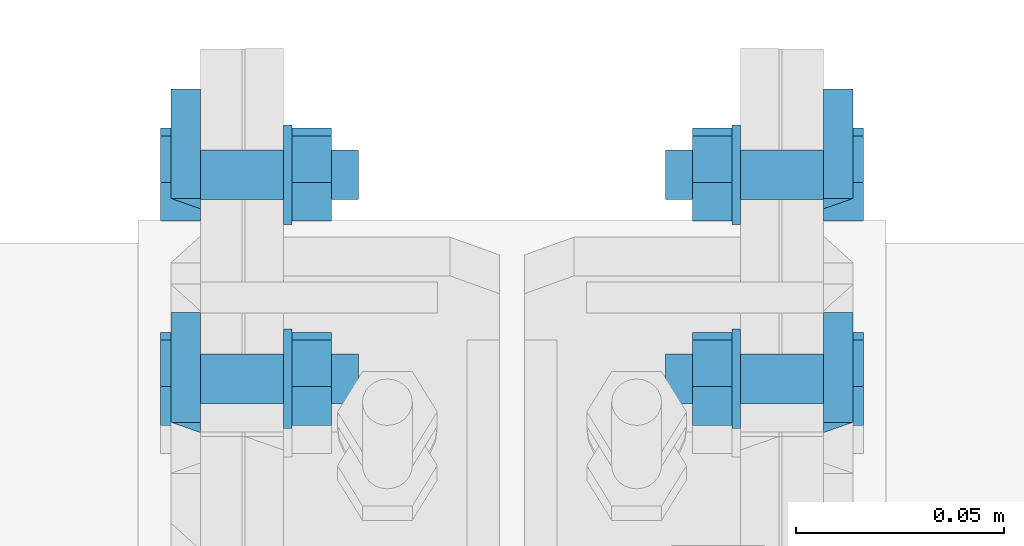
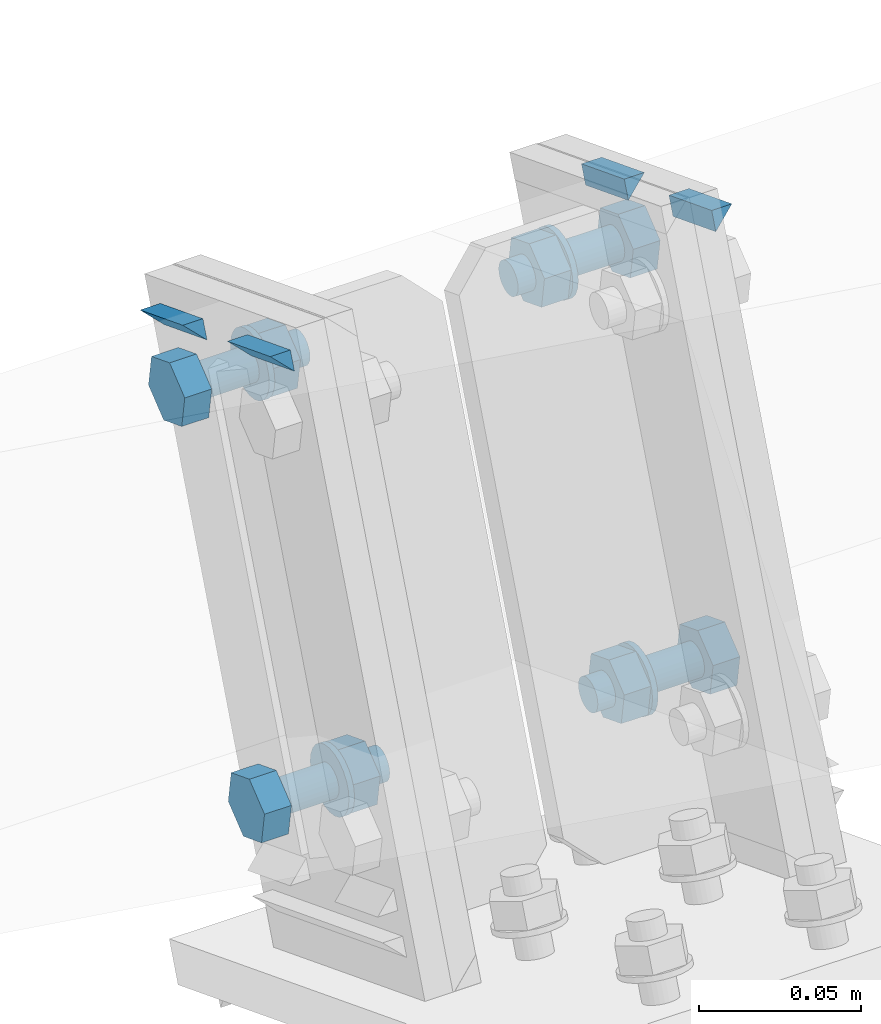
# One storey, part 67 of 72: 16 mechanical fasteners, 8 fasteners.
"""IFC4 building model written with IfcOpenShell, lengths in metres."""

import ifcopenshell
import ifcopenshell.guid

model = None  # the IFC model being written
_history = None  # IfcOwnerHistory: only IFC2X3 demands one
_inside = {}  # id of a spatial element -> (the spatial element, [elements in it])
_under = {}  # id of a project, library or spatial element -> (it, [spatial elements below it])
_declared = {}  # id of a project -> (the project, [libraries it declares])
_typed = {}  # id of a type object -> (the type object, [elements of that type])
_made_of = {}  # id of a material, layer set ... -> (it, [elements and type objects made of it])


def new_model(schema):
    """Start an empty IFC model of exactly this schema.

    Asked for "IFC4X3", IfcOpenShell would pick the latest addendum, in which some entities
    have other attributes; the version numbers below select the first issue.
    IFC2X3 requires an IfcOwnerHistory on every rooted entity: one is made here for all.
    """
    global model, _history
    if schema == "IFC4X3":
        model = ifcopenshell.file(schema_version=(4, 3, 0, 0))
    else:
        model = ifcopenshell.file(schema=schema)
    _inside.clear()
    _under.clear()
    _declared.clear()
    _typed.clear()
    _made_of.clear()
    _history = None
    if model.schema == "IFC2X3":
        org = make("IfcOrganization", Name="unknown")
        user = make(
            "IfcPersonAndOrganization",
            ThePerson=make("IfcPerson", FamilyName="unknown"),
            TheOrganization=org,
        )
        app = make(
            "IfcApplication",
            ApplicationDeveloper=org,
            Version="unknown",
            ApplicationFullName="unknown",
            ApplicationIdentifier="unknown",
        )
        _history = make(
            "IfcOwnerHistory",
            OwningUser=user,
            OwningApplication=app,
            ChangeAction="ADDED",
            CreationDate=0,
        )
    return model


def make(cls, **values):
    """One entity of the class cls with the attributes given. An attribute that is None is left unset."""
    return model.create_entity(
        cls, **{name: value for name, value in values.items() if value is not None}
    )


def rooted(cls, **values):
    """An entity with a GlobalId (a new one), such as an element, a storey or a relation."""
    return make(cls, GlobalId=ifcopenshell.guid.new(), OwnerHistory=_history, **values)


def si_unit(unit_type, name, prefix=None):
    """IfcSIUnit, for example si_unit("LENGTHUNIT", "METRE", prefix="MILLI")."""
    return make("IfcSIUnit", UnitType=unit_type, Prefix=prefix, Name=name)


def assignment(units):
    """IfcUnitAssignment: the units of a project."""
    return None if units is None else make("IfcUnitAssignment", Units=units)


def point(xyz):
    """IfcCartesianPoint."""
    return None if xyz is None else make("IfcCartesianPoint", Coordinates=xyz)


def direction(xyz):
    """IfcDirection."""
    return None if xyz is None else make("IfcDirection", DirectionRatios=xyz)


def frame(location, z_axis=None, x_axis=None):
    """IfcAxis2Placement3D, a coordinate frame: its origin and axes. An axis left out is left unset."""
    return make(
        "IfcAxis2Placement3D",
        Location=point(location),
        Axis=direction(z_axis),
        RefDirection=direction(x_axis),
    )


def origin_with_axes():
    """The frame at (0, 0, 0) with the z axis (0, 0, 1) and the x axis (1, 0, 0) written out."""
    return frame((0.0, 0.0, 0.0), z_axis=(0.0, 0.0, 1.0), x_axis=(1.0, 0.0, 0.0))


def place(relative_to, where):
    """IfcLocalPlacement: puts the frame where relative to a parent placement (None: the world)."""
    return make(
        "IfcLocalPlacement", PlacementRelTo=relative_to, RelativePlacement=where
    )


def context(
    kind, dimensions, precision=None, world=None, true_north=None, identifier=None
):
    """IfcGeometricRepresentationContext, for example the 3D "Model" context."""
    return make(
        "IfcGeometricRepresentationContext",
        ContextIdentifier=identifier,
        ContextType=kind,
        CoordinateSpaceDimension=dimensions,
        Precision=precision,
        WorldCoordinateSystem=world,
        TrueNorth=true_north,
    )


def project(units=None, contexts=None):
    """IfcProject with its units and contexts."""
    return rooted(
        "IfcProject",
        Name="project",
        RepresentationContexts=contexts,
        UnitsInContext=assignment(units),
    )


def spatial(cls, under=None, at=None, **own):
    """A site, building, storey or space (cls), placed at a placement, below another one or the project."""
    s = rooted(cls, ObjectPlacement=at, **own)
    if under is not None:
        _under.setdefault(under.id(), (under, []))[1].append(s)
    return s


def polyline(points):
    """IfcPolyline through the points."""
    return make("IfcPolyline", Points=[point(p) for p in points])


def outline(outer, holes=None, kind="AREA"):
    """IfcArbitraryClosedProfileDef: a profile drawn as a closed curve; with holes, ...WithVoids."""
    if holes is None:
        return make("IfcArbitraryClosedProfileDef", ProfileType=kind, OuterCurve=outer)
    return make(
        "IfcArbitraryProfileDefWithVoids",
        ProfileType=kind,
        OuterCurve=outer,
        InnerCurves=holes,
    )


def extrude(swept, where, along, depth):
    """IfcExtrudedAreaSolid: the profile swept, set in the frame where, extruded along a direction by depth."""
    return make(
        "IfcExtrudedAreaSolid",
        SweptArea=swept,
        Position=where,
        ExtrudedDirection=direction(along),
        Depth=depth,
    )


def shape(context_of_items, identifier, shape_type, items):
    """IfcShapeRepresentation: the items that make up one representation, for example the "Body"."""
    return make(
        "IfcShapeRepresentation",
        ContextOfItems=context_of_items,
        RepresentationIdentifier=identifier,
        RepresentationType=shape_type,
        Items=items,
    )


def made_of(thing, what):
    """Note that an element or type object is made of a material, layer set ...; save() writes the relation."""
    if what is not None:
        _made_of.setdefault(what.id(), (what, []))[1].append(thing)
    return thing


def type_object(cls, material=None, **own):
    """A type object (cls), such as IfcWallType, which elements share."""
    return made_of(rooted(cls, **own), material)


def element(
    cls,
    number,
    at=None,
    inside=None,
    cuts=None,
    type_object=None,
    material=None,
    context=None,
    identifier="Body",
    shape_type=None,
    held_by="IfcProductDefinitionShape",
    body=None,
    shapes=None,
    **own,
):
    """One element of the class cls, such as IfcWall. Its Tag is "e" and its number.

    at: its placement. inside: the storey or other place that contains it. cuts: it is an
    opening in that element (IfcRelVoidsElement). A single representation is given by context,
    identifier, shape_type and body (its items); several are given by shapes. held_by: the class
    of the entity that holds the representations. save() writes the other relations.
    """
    e = rooted(cls, Tag="e%d" % number, ObjectPlacement=at, **own)
    if body is not None:
        shapes = [shape(context, identifier, shape_type, body)]
    if shapes is not None:
        e.Representation = make(held_by, Representations=shapes)
    if inside is not None:
        _inside.setdefault(inside.id(), (inside, []))[1].append(e)
    if cuts is not None:
        rooted(
            "IfcRelVoidsElement", RelatingBuildingElement=cuts, RelatedOpeningElement=e
        )
    if type_object is not None:
        _typed.setdefault(type_object.id(), (type_object, []))[1].append(e)
    return made_of(e, material)


def aggregate(whole, parts):
    """IfcRelAggregates: a whole, such as a stair, and the parts it consists of."""
    return rooted("IfcRelAggregates", RelatingObject=whole, RelatedObjects=parts)


def save(model, path):
    """Write the relations noted so far, then the file.

    IfcRelAggregates (storeys below a building ...), IfcRelContainedInSpatialStructure (elements
    in a storey), IfcRelDefinesByType, IfcRelAssociatesMaterial and IfcRelDeclares: one each for
    every whole, place, type object, material and project.
    """
    for whole, parts in _under.values():
        aggregate(whole, parts)
    for where, things in _inside.values():
        rooted(
            "IfcRelContainedInSpatialStructure",
            RelatedElements=things,
            RelatingStructure=where,
        )
    for kind, things in _typed.values():
        rooted("IfcRelDefinesByType", RelatedObjects=things, RelatingType=kind)
    for what, things in _made_of.values():
        rooted("IfcRelAssociatesMaterial", RelatedObjects=things, RelatingMaterial=what)
    for by, libraries in _declared.values():
        rooted("IfcRelDeclares", RelatingContext=by, RelatedDefinitions=libraries)
    model.write(path)


model = new_model("IFC4")

# Units and contexts
model_context = context("Model", 3, precision=1e-05, world=origin_with_axes())
ifc_project = project(units=[si_unit("LENGTHUNIT", "METRE"), si_unit("AREAUNIT", "SQUARE_METRE"), si_unit("VOLUMEUNIT", "CUBIC_METRE"), si_unit("MASSUNIT", "GRAM", prefix="KILO"), si_unit("TIMEUNIT", "SECOND"), si_unit("PLANEANGLEUNIT", "RADIAN"), si_unit("SOLIDANGLEUNIT", "STERADIAN"), si_unit("THERMODYNAMICTEMPERATUREUNIT", "DEGREE_CELSIUS")], contexts=[model_context])

# Site, building, storey
placement_1 = place(None, origin_with_axes())
site = spatial("IfcSite", under=ifc_project, at=placement_1, Name="Italia", CompositionType="ELEMENT")
building = spatial("IfcBuilding", under=site, at=placement_1, Name="Uffici", CompositionType="ELEMENT")
storey = spatial("IfcBuildingStorey", under=building, at=placement_1, Name="Storey 0", CompositionType="ELEMENT", Elevation=0.0)

# Fasteners
fastener_type_1 = type_object("IfcFastenerType", Name="Collegamento 0209_0208", PredefinedType="WELD")
placement_2 = place(placement_1, origin_with_axes())
fastener_1_placement = place(placement_2, origin_with_axes())
element("IfcFastener", 1, at=fastener_1_placement, inside=storey, type_object=fastener_type_1, Name="Collegamento 0209_0208", context=model_context, shape_type="SweptSolid", body=[
    extrude(outline(polyline([(0.0, 0.0), (-0.00717354, 0.00695801), (0.0, 0.00695801), (0.0, 0.0)])), frame((9.38005, 4.93457, 5.31007), z_axis=(0.0, -0.932385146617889, 0.361466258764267), x_axis=(1.0, 0.0, 0.0)), (0.0, 0.0, 1.0), 0.0283003),
])
fastener_type_2 = type_object("IfcFastenerType", Name="Collegamento 0209_0208", PredefinedType="WELD")
fastener_2_placement = place(placement_2, origin_with_axes())
element("IfcFastener", 2, at=fastener_2_placement, inside=storey, type_object=fastener_type_2, Name="Collegamento 0209_0208", context=model_context, shape_type="SweptSolid", body=[
    extrude(outline(polyline([(0.0, 0.0), (-0.00717354, 0.00695801), (0.0, 0.00695801), (0.0, 0.0)])), frame((9.38005, 4.88068, 5.33097), z_axis=(0.0, -0.932388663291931, 0.361457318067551), x_axis=(1.0, 0.0, 0.0)), (0.0, 0.0, 1.0), 0.0282996),
])
fastener_type_3 = type_object("IfcFastenerType", Name="Collegamento 0209_0208", PredefinedType="WELD")
fastener_3_placement = place(placement_2, origin_with_axes())
element("IfcFastener", 3, at=fastener_3_placement, inside=storey, type_object=fastener_type_3, Name="Collegamento 0209_0208", context=model_context, shape_type="SweptSolid", body=[
    extrude(outline(polyline([(0.0, 0.0), (-0.00717354, 0.00695801), (0.0, 0.00695801), (0.0, 0.0)])), frame((9.38005, 4.93457, 5.31007), z_axis=(0.0, -0.932385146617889, 0.361466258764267), x_axis=(1.0, 0.0, 0.0)), (0.0, 0.0, 1.0), 0.0283003),
])
fastener_type_4 = type_object("IfcFastenerType", Name="Collegamento 0209_0208", PredefinedType="WELD")
fastener_4_placement = place(placement_2, origin_with_axes())
element("IfcFastener", 4, at=fastener_4_placement, inside=storey, type_object=fastener_type_4, Name="Collegamento 0209_0208", context=model_context, shape_type="SweptSolid", body=[
    extrude(outline(polyline([(0.0, 0.0), (-0.00717354, 0.00695801), (0.0, 0.00695801), (0.0, 0.0)])), frame((9.38005, 4.88068, 5.33097), z_axis=(0.0, -0.932388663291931, 0.361457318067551), x_axis=(1.0, 0.0, 0.0)), (0.0, 0.0, 1.0), 0.0282996),
])

# Mechanical fasteners
mechanical_fastener_type_1 = type_object("IfcMechanicalFastenerType", Name="Collegamento 0209_0208", PredefinedType="BOLT")
mechanical_fastener_1_placement = place(placement_2, origin_with_axes())
element("IfcMechanicalFastener", 5, at=mechanical_fastener_1_placement, inside=storey, type_object=mechanical_fastener_type_1, Name="Collegamento 0209_0208", NominalDiameter=0.0119998, context=model_context, shape_type="SweptSolid", body=[
    extrude(outline(polyline([(0.0, 0.0), (-0.0111885, -0.00433731), (-0.0205393, 0.00318336), (-0.0187016, 0.0150418), (-0.00751305, 0.0193791), (0.00183773, 0.0118585), (0.0, 0.0)])), frame((9.38, 4.8579, 5.16499), z_axis=(-1.0, 0.0, 0.0), x_axis=(0.0, -1.0, 0.0)), (0.0, 0.0, 1.0), 0.00959969),
])
mechanical_fastener_type_2 = type_object("IfcMechanicalFastenerType", Name="Collegamento 0209_0208", PredefinedType="BOLT")
mechanical_fastener_2_placement = place(placement_2, origin_with_axes())
element("IfcMechanicalFastener", 6, at=mechanical_fastener_2_placement, inside=storey, type_object=mechanical_fastener_type_2, Name="Collegamento 0209_0208", NominalDiameter=0.012, context=model_context, shape_type="SweptSolid", body=[
    extrude(outline(polyline([(0.0, 0.0), (-0.000204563, -0.00155306), (-0.000803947, -0.00299978), (-0.00175762, -0.00424242), (-0.00300026, -0.00519609), (-0.00444698, -0.00579548), (-0.00600004, -0.00600004), (-0.0075531, -0.00579548), (-0.00899982, -0.00519609), (-0.0102425, -0.00424242), (-0.0111961, -0.00299978), (-0.0117955, -0.00155306), (-0.0120001, 0.0), (-0.0117955, 0.00155306), (-0.0111961, 0.00299978), (-0.0102425, 0.00424242), (-0.00899982, 0.00519609), (-0.0075531, 0.00579548), (-0.00600004, 0.00600004), (-0.00444698, 0.00579548), (-0.00300026, 0.00519609), (-0.00175762, 0.00424242), (-0.000803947, 0.00299978), (-0.000204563, 0.00155306), (0.0, 0.0)])), frame((9.418, 4.86125, 5.17251), z_axis=(-1.0, 0.0, 0.0), x_axis=(0.0, -1.0, 0.0)), (0.0, 0.0, 1.0), 0.0380001),
])
mechanical_fastener_type_3 = type_object("IfcMechanicalFastenerType", Name="Collegamento 0209_0208", PredefinedType="BOLT")
mechanical_fastener_3_placement = place(placement_2, origin_with_axes())
element("IfcMechanicalFastener", 7, at=mechanical_fastener_3_placement, inside=storey, type_object=mechanical_fastener_type_3, Name="Collegamento 0209_0208", NominalDiameter=0.0119998, context=model_context, shape_type="SweptSolid", body=[
    extrude(outline(polyline([(0.0, 0.0), (-0.0111885, -0.00433731), (-0.0205393, 0.00318336), (-0.0187016, 0.0150418), (-0.00751305, 0.0193791), (0.00183773, 0.0118585), (0.0, 0.0)])), frame((9.4116, 4.8579, 5.16499), z_axis=(-1.0, 0.0, 0.0), x_axis=(0.0, -1.0, 0.0)), (0.0, 0.0, 1.0), 0.00959969),
])
mechanical_fastener_type_4 = type_object("IfcMechanicalFastenerType", Name="Collegamento 0209_0208", PredefinedType="BOLT")
mechanical_fastener_4_placement = place(placement_2, origin_with_axes())
element("IfcMechanicalFastener", 8, at=mechanical_fastener_4_placement, inside=storey, type_object=mechanical_fastener_type_4, Name="Collegamento 0209_0208", NominalDiameter=0.024, context=model_context, shape_type="SweptSolid", body=[
    extrude(outline(polyline([(0.0, 0.0), (-0.000409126, -0.00310564), (-0.00160789, -0.00600004), (-0.00351477, -0.00848532), (-0.00600004, -0.0103922), (-0.00889444, -0.011591), (-0.0120001, -0.0120001), (-0.0151057, -0.011591), (-0.0180001, -0.0103922), (-0.0204854, -0.00848532), (-0.0223923, -0.00600004), (-0.023591, -0.00310564), (-0.0240002, 0.0), (-0.023591, 0.00310564), (-0.0223923, 0.00600004), (-0.0204854, 0.00848532), (-0.0180001, 0.0103922), (-0.0151057, 0.011591), (-0.0120001, 0.0120001), (-0.00889444, 0.011591), (-0.00600004, 0.0103922), (-0.00351477, 0.00848532), (-0.00160789, 0.00600004), (-0.000409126, 0.00310564), (0.0, 0.0)])), frame((9.402, 4.85525, 5.17251), z_axis=(-1.0, 0.0, 0.0), x_axis=(0.0, -1.0, 0.0)), (0.0, 0.0, 1.0), 0.00199986),
])
mechanical_fastener_type_5 = type_object("IfcMechanicalFastenerType", Name="Collegamento 0209_0208", PredefinedType="BOLT")
mechanical_fastener_5_placement = place(placement_2, origin_with_axes())
element("IfcMechanicalFastener", 9, at=mechanical_fastener_5_placement, inside=storey, type_object=mechanical_fastener_type_5, Name="Collegamento 0209_0208", NominalDiameter=0.0119998, context=model_context, shape_type="SweptSolid", body=[
    extrude(outline(polyline([(0.0, 0.0), (-0.0111885, -0.00433779), (-0.0205393, 0.00318336), (-0.0187011, 0.0150418), (-0.00751257, 0.0193791), (0.00183821, 0.0118585), (0.0, 0.0)])), frame((9.38, 4.90705, 5.2918), z_axis=(-1.0, 0.0, 0.0), x_axis=(0.0, -1.0, 0.0)), (0.0, 0.0, 1.0), 0.00959969),
])
mechanical_fastener_type_6 = type_object("IfcMechanicalFastenerType", Name="Collegamento 0209_0208", PredefinedType="BOLT")
mechanical_fastener_6_placement = place(placement_2, origin_with_axes())
element("IfcMechanicalFastener", 10, at=mechanical_fastener_6_placement, inside=storey, type_object=mechanical_fastener_type_6, Name="Collegamento 0209_0208", NominalDiameter=0.012, context=model_context, shape_type="SweptSolid", body=[
    extrude(outline(polyline([(0.0, 0.0), (-0.000204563, -0.00155306), (-0.000803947, -0.00299978), (-0.00175762, -0.00424242), (-0.00300026, -0.00519609), (-0.00444698, -0.00579548), (-0.00600004, -0.00600004), (-0.0075531, -0.00579548), (-0.00899982, -0.00519609), (-0.0102425, -0.00424242), (-0.0111961, -0.00299978), (-0.0117955, -0.00155306), (-0.0120001, 0.0), (-0.0117955, 0.00155306), (-0.0111961, 0.00299978), (-0.0102425, 0.00424242), (-0.00899982, 0.00519609), (-0.0075531, 0.00579548), (-0.00600004, 0.00600004), (-0.00444698, 0.00579548), (-0.00300026, 0.00519609), (-0.00175762, 0.00424242), (-0.000803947, 0.00299978), (-0.000204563, 0.00155306), (0.0, 0.0)])), frame((9.418, 4.9104, 5.29932), z_axis=(-1.0, 0.0, 0.0), x_axis=(0.0, -1.0, 0.0)), (0.0, 0.0, 1.0), 0.0380001),
])
mechanical_fastener_type_7 = type_object("IfcMechanicalFastenerType", Name="Collegamento 0209_0208", PredefinedType="BOLT")
mechanical_fastener_7_placement = place(placement_2, origin_with_axes())
element("IfcMechanicalFastener", 11, at=mechanical_fastener_7_placement, inside=storey, type_object=mechanical_fastener_type_7, Name="Collegamento 0209_0208", NominalDiameter=0.0119998, context=model_context, shape_type="SweptSolid", body=[
    extrude(outline(polyline([(0.0, 0.0), (-0.0111885, -0.00433779), (-0.0205393, 0.00318336), (-0.0187011, 0.0150418), (-0.00751257, 0.0193791), (0.00183821, 0.0118585), (0.0, 0.0)])), frame((9.4116, 4.90705, 5.2918), z_axis=(-1.0, 0.0, 0.0), x_axis=(0.0, -1.0, 0.0)), (0.0, 0.0, 1.0), 0.00959969),
])
mechanical_fastener_type_8 = type_object("IfcMechanicalFastenerType", Name="Collegamento 0209_0208", PredefinedType="BOLT")
mechanical_fastener_8_placement = place(placement_2, origin_with_axes())
element("IfcMechanicalFastener", 12, at=mechanical_fastener_8_placement, inside=storey, type_object=mechanical_fastener_type_8, Name="Collegamento 0209_0208", NominalDiameter=0.024, context=model_context, shape_type="SweptSolid", body=[
    extrude(outline(polyline([(0.0, 0.0), (-0.000409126, -0.00310564), (-0.00160789, -0.00600004), (-0.00351477, -0.00848532), (-0.00600004, -0.0103922), (-0.00889444, -0.011591), (-0.0120001, -0.0120001), (-0.0151057, -0.011591), (-0.0180001, -0.0103922), (-0.0204854, -0.00848532), (-0.0223923, -0.00600004), (-0.023591, -0.00310564), (-0.0240002, 0.0), (-0.023591, 0.00310564), (-0.0223923, 0.00600004), (-0.0204854, 0.00848532), (-0.0180001, 0.0103922), (-0.0151057, 0.011591), (-0.0120001, 0.0120001), (-0.00889444, 0.011591), (-0.00600004, 0.0103922), (-0.00351477, 0.00848532), (-0.00160789, 0.00600004), (-0.000409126, 0.00310564), (0.0, 0.0)])), frame((9.402, 4.9044, 5.29932), z_axis=(-1.0, 0.0, 0.0), x_axis=(0.0, -1.0, 0.0)), (0.0, 0.0, 1.0), 0.00199986),
])

# Fasteners
fastener_type_5 = type_object("IfcFastenerType", Name="Collegamento 0209_0210", PredefinedType="WELD")
fastener_5_placement = place(placement_2, origin_with_axes())
element("IfcFastener", 13, at=fastener_5_placement, inside=storey, type_object=fastener_type_5, Name="Collegamento 0209_0210", context=model_context, shape_type="SweptSolid", body=[
    extrude(outline(polyline([(0.0, 0.0), (-0.00717354, 0.00695801), (0.0, 0.00695801), (0.0, 0.0)])), frame((9.52995, 4.90818, 5.3203), z_axis=(0.0, 0.932385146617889, -0.361466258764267), x_axis=(-1.0, 0.0, 0.0)), (0.0, 0.0, 1.0), 0.0283003),
])
fastener_type_6 = type_object("IfcFastenerType", Name="Collegamento 0209_0210", PredefinedType="WELD")
fastener_6_placement = place(placement_2, origin_with_axes())
element("IfcFastener", 14, at=fastener_6_placement, inside=storey, type_object=fastener_type_6, Name="Collegamento 0209_0210", context=model_context, shape_type="SweptSolid", body=[
    extrude(outline(polyline([(0.0, 0.0), (-0.00717354, 0.00695848), (0.0, 0.00695848), (0.0, 0.0)])), frame((9.52995, 4.85429, 5.34119), z_axis=(0.0, 0.932388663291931, -0.361457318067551), x_axis=(-1.0, 0.0, 0.0)), (0.0, 0.0, 1.0), 0.0282996),
])
fastener_type_7 = type_object("IfcFastenerType", Name="Collegamento 0209_0210", PredefinedType="WELD")
fastener_7_placement = place(placement_2, origin_with_axes())
element("IfcFastener", 15, at=fastener_7_placement, inside=storey, type_object=fastener_type_7, Name="Collegamento 0209_0210", context=model_context, shape_type="SweptSolid", body=[
    extrude(outline(polyline([(0.0, 0.0), (-0.00717354, 0.00695801), (0.0, 0.00695801), (0.0, 0.0)])), frame((9.52995, 4.90818, 5.3203), z_axis=(0.0, 0.932385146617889, -0.361466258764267), x_axis=(-1.0, 0.0, 0.0)), (0.0, 0.0, 1.0), 0.0283003),
])
fastener_type_8 = type_object("IfcFastenerType", Name="Collegamento 0209_0210", PredefinedType="WELD")
fastener_8_placement = place(placement_2, origin_with_axes())
element("IfcFastener", 16, at=fastener_8_placement, inside=storey, type_object=fastener_type_8, Name="Collegamento 0209_0210", context=model_context, shape_type="SweptSolid", body=[
    extrude(outline(polyline([(0.0, 0.0), (-0.00717354, 0.00695848), (0.0, 0.00695848), (0.0, 0.0)])), frame((9.52995, 4.85429, 5.34119), z_axis=(0.0, 0.932388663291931, -0.361457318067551), x_axis=(-1.0, 0.0, 0.0)), (0.0, 0.0, 1.0), 0.0282996),
])

# Mechanical fasteners
mechanical_fastener_type_9 = type_object("IfcMechanicalFastenerType", Name="Collegamento 0209_0210", PredefinedType="BOLT")
mechanical_fastener_9_placement = place(placement_2, origin_with_axes())
element("IfcMechanicalFastener", 17, at=mechanical_fastener_9_placement, inside=storey, type_object=mechanical_fastener_type_9, Name="Collegamento 0209_0210", NominalDiameter=0.0119998, context=model_context, shape_type="SweptSolid", body=[
    extrude(outline(polyline([(0.0, 0.0), (-0.0111885, 0.00433731), (-0.0130262, 0.0161958), (-0.00367546, 0.0237164), (0.00751305, 0.0193791), (0.00935078, 0.00752068), (0.0, 0.0)])), frame((9.53, 4.86908, 5.16066), z_axis=(1.0, 0.0, 0.0), x_axis=(0.0, 1.0, 0.0)), (0.0, 0.0, 1.0), 0.00959969),
])
mechanical_fastener_type_10 = type_object("IfcMechanicalFastenerType", Name="Collegamento 0209_0210", PredefinedType="BOLT")
mechanical_fastener_10_placement = place(placement_2, origin_with_axes())
element("IfcMechanicalFastener", 18, at=mechanical_fastener_10_placement, inside=storey, type_object=mechanical_fastener_type_10, Name="Collegamento 0209_0210", NominalDiameter=0.012, context=model_context, shape_type="SweptSolid", body=[
    extrude(outline(polyline([(0.0, 0.0), (-0.000204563, -0.00155306), (-0.000803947, -0.00299978), (-0.00175762, -0.00424242), (-0.00300026, -0.00519609), (-0.00444698, -0.00579548), (-0.00600004, -0.00600004), (-0.0075531, -0.00579548), (-0.00899982, -0.00519609), (-0.0102425, -0.00424242), (-0.0111961, -0.00299978), (-0.0117955, -0.00155306), (-0.0120001, 0.0), (-0.0117955, 0.00155306), (-0.0111961, 0.00299978), (-0.0102425, 0.00424242), (-0.00899982, 0.00519609), (-0.0075531, 0.00579548), (-0.00600004, 0.00600004), (-0.00444698, 0.00579548), (-0.00300026, 0.00519609), (-0.00175762, 0.00424242), (-0.000803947, 0.00299978), (-0.000204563, 0.00155306), (0.0, 0.0)])), frame((9.492, 4.87325, 5.17251), z_axis=(1.0, 0.0, 0.0), x_axis=(0.0, 1.0, 0.0)), (0.0, 0.0, 1.0), 0.0380001),
])
mechanical_fastener_type_11 = type_object("IfcMechanicalFastenerType", Name="Collegamento 0209_0210", PredefinedType="BOLT")
mechanical_fastener_11_placement = place(placement_2, origin_with_axes())
element("IfcMechanicalFastener", 19, at=mechanical_fastener_11_placement, inside=storey, type_object=mechanical_fastener_type_11, Name="Collegamento 0209_0210", NominalDiameter=0.0119998, context=model_context, shape_type="SweptSolid", body=[
    extrude(outline(polyline([(0.0, 0.0), (-0.0111885, 0.00433731), (-0.0130262, 0.0161958), (-0.00367546, 0.0237164), (0.00751305, 0.0193791), (0.00935078, 0.00752068), (0.0, 0.0)])), frame((9.4984, 4.86908, 5.16066), z_axis=(1.0, 0.0, 0.0), x_axis=(0.0, 1.0, 0.0)), (0.0, 0.0, 1.0), 0.00959969),
])
mechanical_fastener_type_12 = type_object("IfcMechanicalFastenerType", Name="Collegamento 0209_0210", PredefinedType="BOLT")
mechanical_fastener_12_placement = place(placement_2, origin_with_axes())
element("IfcMechanicalFastener", 20, at=mechanical_fastener_12_placement, inside=storey, type_object=mechanical_fastener_type_12, Name="Collegamento 0209_0210", NominalDiameter=0.024, context=model_context, shape_type="SweptSolid", body=[
    extrude(outline(polyline([(0.0, 0.0), (-0.000409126, -0.00310564), (-0.00160789, -0.00600004), (-0.00351477, -0.00848532), (-0.00600004, -0.0103922), (-0.00889444, -0.011591), (-0.0120001, -0.0120001), (-0.0151057, -0.011591), (-0.0180001, -0.0103922), (-0.0204854, -0.00848532), (-0.0223923, -0.00600004), (-0.023591, -0.00310564), (-0.0240002, 0.0), (-0.023591, 0.00310564), (-0.0223923, 0.00600004), (-0.0204854, 0.00848532), (-0.0180001, 0.0103922), (-0.0151057, 0.011591), (-0.0120001, 0.0120001), (-0.00889444, 0.011591), (-0.00600004, 0.0103922), (-0.00351477, 0.00848532), (-0.00160789, 0.00600004), (-0.000409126, 0.00310564), (0.0, 0.0)])), frame((9.508, 4.87925, 5.17251), z_axis=(1.0, 0.0, 0.0), x_axis=(0.0, 1.0, 0.0)), (0.0, 0.0, 1.0), 0.00199986),
])
mechanical_fastener_type_13 = type_object("IfcMechanicalFastenerType", Name="Collegamento 0209_0210", PredefinedType="BOLT")
mechanical_fastener_13_placement = place(placement_2, origin_with_axes())
element("IfcMechanicalFastener", 21, at=mechanical_fastener_13_placement, inside=storey, type_object=mechanical_fastener_type_13, Name="Collegamento 0209_0210", NominalDiameter=0.0119998, context=model_context, shape_type="SweptSolid", body=[
    extrude(outline(polyline([(0.0, 0.0), (-0.0111885, 0.00433779), (-0.0130267, 0.0161963), (-0.00367594, 0.0237169), (0.00751257, 0.0193796), (0.00935078, 0.00752115), (0.0, 0.0)])), frame((9.53, 4.91824, 5.28746), z_axis=(1.0, 0.0, 0.0), x_axis=(0.0, 1.0, 0.0)), (0.0, 0.0, 1.0), 0.00959969),
])
mechanical_fastener_type_14 = type_object("IfcMechanicalFastenerType", Name="Collegamento 0209_0210", PredefinedType="BOLT")
mechanical_fastener_14_placement = place(placement_2, origin_with_axes())
element("IfcMechanicalFastener", 22, at=mechanical_fastener_14_placement, inside=storey, type_object=mechanical_fastener_type_14, Name="Collegamento 0209_0210", NominalDiameter=0.012, context=model_context, shape_type="SweptSolid", body=[
    extrude(outline(polyline([(0.0, 0.0), (-0.000204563, -0.00155306), (-0.000803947, -0.00299978), (-0.00175762, -0.00424242), (-0.00300026, -0.00519609), (-0.00444698, -0.00579548), (-0.00600004, -0.00600004), (-0.0075531, -0.00579548), (-0.00899982, -0.00519609), (-0.0102425, -0.00424242), (-0.0111961, -0.00299978), (-0.0117955, -0.00155306), (-0.0120001, 0.0), (-0.0117955, 0.00155306), (-0.0111961, 0.00299978), (-0.0102425, 0.00424242), (-0.00899982, 0.00519609), (-0.0075531, 0.00579548), (-0.00600004, 0.00600004), (-0.00444698, 0.00579548), (-0.00300026, 0.00519609), (-0.00175762, 0.00424242), (-0.000803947, 0.00299978), (-0.000204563, 0.00155306), (0.0, 0.0)])), frame((9.492, 4.9224, 5.29932), z_axis=(1.0, 0.0, 0.0), x_axis=(0.0, 1.0, 0.0)), (0.0, 0.0, 1.0), 0.0380001),
])
mechanical_fastener_type_15 = type_object("IfcMechanicalFastenerType", Name="Collegamento 0209_0210", PredefinedType="BOLT")
mechanical_fastener_15_placement = place(placement_2, origin_with_axes())
element("IfcMechanicalFastener", 23, at=mechanical_fastener_15_placement, inside=storey, type_object=mechanical_fastener_type_15, Name="Collegamento 0209_0210", NominalDiameter=0.0119998, context=model_context, shape_type="SweptSolid", body=[
    extrude(outline(polyline([(0.0, 0.0), (-0.0111885, 0.00433779), (-0.0130267, 0.0161963), (-0.00367594, 0.0237169), (0.00751257, 0.0193796), (0.00935078, 0.00752115), (0.0, 0.0)])), frame((9.4984, 4.91824, 5.28746), z_axis=(1.0, 0.0, 0.0), x_axis=(0.0, 1.0, 0.0)), (0.0, 0.0, 1.0), 0.00959969),
])
mechanical_fastener_type_16 = type_object("IfcMechanicalFastenerType", Name="Collegamento 0209_0210", PredefinedType="BOLT")
mechanical_fastener_16_placement = place(placement_2, origin_with_axes())
element("IfcMechanicalFastener", 24, at=mechanical_fastener_16_placement, inside=storey, type_object=mechanical_fastener_type_16, Name="Collegamento 0209_0210", NominalDiameter=0.024, context=model_context, shape_type="SweptSolid", body=[
    extrude(outline(polyline([(0.0, 0.0), (-0.000409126, -0.00310564), (-0.00160789, -0.00600004), (-0.00351477, -0.00848532), (-0.00600004, -0.0103922), (-0.00889444, -0.011591), (-0.0120001, -0.0120001), (-0.0151057, -0.011591), (-0.0180001, -0.0103922), (-0.0204854, -0.00848532), (-0.0223923, -0.00600004), (-0.023591, -0.00310564), (-0.0240002, 0.0), (-0.023591, 0.00310564), (-0.0223923, 0.00600004), (-0.0204854, 0.00848532), (-0.0180001, 0.0103922), (-0.0151057, 0.011591), (-0.0120001, 0.0120001), (-0.00889444, 0.011591), (-0.00600004, 0.0103922), (-0.00351477, 0.00848532), (-0.00160789, 0.00600004), (-0.000409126, 0.00310564), (0.0, 0.0)])), frame((9.508, 4.9284, 5.29932), z_axis=(1.0, 0.0, 0.0), x_axis=(0.0, 1.0, 0.0)), (0.0, 0.0, 1.0), 0.00199986),
])

save(model, "model.ifc")
